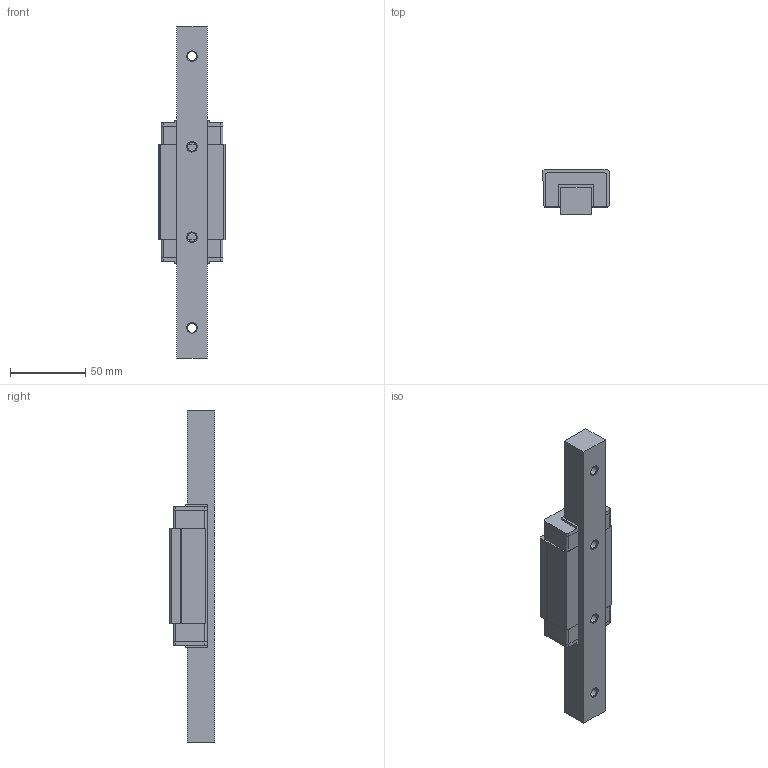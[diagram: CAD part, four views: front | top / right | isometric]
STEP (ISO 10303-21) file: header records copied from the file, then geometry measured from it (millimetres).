
FILE_DESCRIPTION( ( 'STEP File Generated from CADKEY Workshop EX' ), '1' );
FILE_NAME( 'Part1', '2004-11-06T00:11:54', ( 'CADKEY USER' ), ( 'CADKEY CORPORATION' ), 'ACIS Interop R11 SP4', 'CADKEY Workshop EX V21.05.02 (0359)', 'CK' );
FILE_SCHEMA( ( 'CONFIG_CONTROL_DESIGN' ) );
Length unit declared in the file: millimetre
Products named in the file (6): 1; 2; 3; 4; 5; 6
Bounding box: 44 x 30 x 220 mm (x, y, z)
Volume: 146789.3 mm3; surface area: 41145 mm2
Topology: 6 solids, 6 shells, 138 faces, 338 edges, 220 vertices
Faces by surface type: plane 82, cylinder 40, cone 16
Entity records: 4331 total; most frequent: DIRECTION 722, CARTESIAN_POINT 702, ORIENTED_EDGE 676, EDGE_CURVE 338, LINE 242, VECTOR 242, AXIS2_PLACEMENT_3D 240, VERTEX_POINT 220
